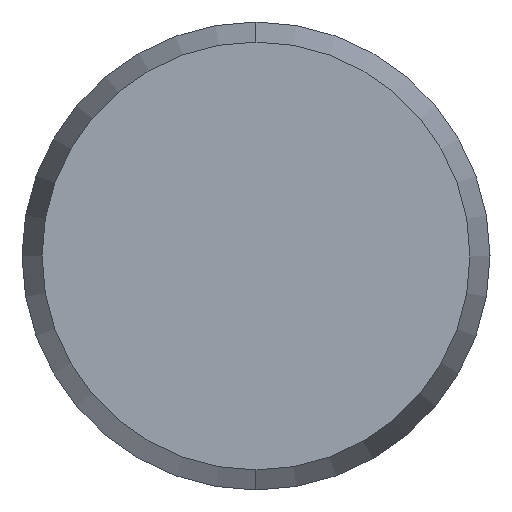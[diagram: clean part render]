
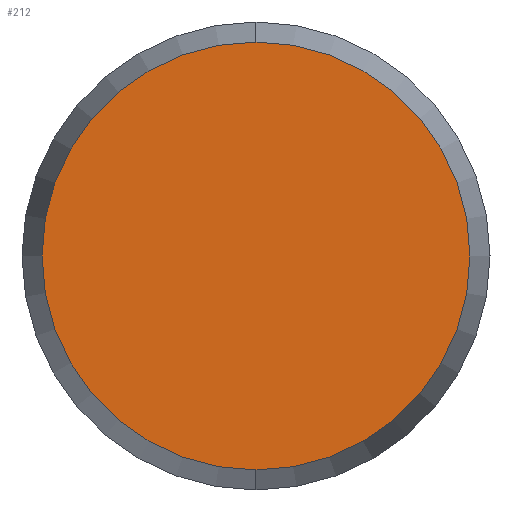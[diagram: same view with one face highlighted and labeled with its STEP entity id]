
A CAD part, left-side view. The second image highlights one B-rep face of the part: STEP entity #212.
In plain terms, the highlighted planar face has unit normal (-1, 0, 0).
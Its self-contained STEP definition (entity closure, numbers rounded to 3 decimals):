
#105 = CARTESIAN_POINT ( 'NONE',  ( -14., 0., 0. ) ) ;
#106 = AXIS2_PLACEMENT_3D ( 'NONE', #105, #197, #196 ) ;
#110 = CIRCLE ( 'NONE', #106, 2.286 ) ;
#165 = DIRECTION ( 'NONE',  ( 0., 0., -1. ) ) ;
#166 = DIRECTION ( 'NONE',  ( 1., 0., 0. ) ) ;
#167 = CARTESIAN_POINT ( 'NONE',  ( -14., 0., 0. ) ) ;
#194 = CARTESIAN_POINT ( 'NONE',  ( -14., 0., -2.286 ) ) ;
#195 = CARTESIAN_POINT ( 'NONE',  ( -14., 0., 2.286 ) ) ;
#196 = DIRECTION ( 'NONE',  ( 0., 0., -1. ) ) ;
#197 = DIRECTION ( 'NONE',  ( 1., 0., 0. ) ) ;
#198 = AXIS2_PLACEMENT_3D ( 'NONE', #167, #166, #165 ) ;
#200 = PLANE ( 'NONE',  #198 ) ;
#201 = DIRECTION ( 'NONE',  ( 0., 0., -1. ) ) ;
#202 = DIRECTION ( 'NONE',  ( 1., 0., 0. ) ) ;
#203 = CARTESIAN_POINT ( 'NONE',  ( -14., 0., 0. ) ) ;
#204 = AXIS2_PLACEMENT_3D ( 'NONE', #203, #202, #201 ) ;
#205 = CIRCLE ( 'NONE', #204, 2.286 ) ;
#206 = FACE_OUTER_BOUND ( 'NONE', #213, .T. ) ;
#209 = EDGE_CURVE ( 'NONE', #249, #248, #205, .T. ) ;
#212 = ADVANCED_FACE ( 'NONE', ( #206 ), #200, .F. ) ;
#213 = EDGE_LOOP ( 'NONE', ( #214, #215 ) ) ;
#214 = ORIENTED_EDGE ( 'NONE', *, *, #247, .F. ) ;
#215 = ORIENTED_EDGE ( 'NONE', *, *, #209, .F. ) ;
#247 = EDGE_CURVE ( 'NONE', #248, #249, #110, .T. ) ;
#248 = VERTEX_POINT ( 'NONE', #195 ) ;
#249 = VERTEX_POINT ( 'NONE', #194 ) ;
